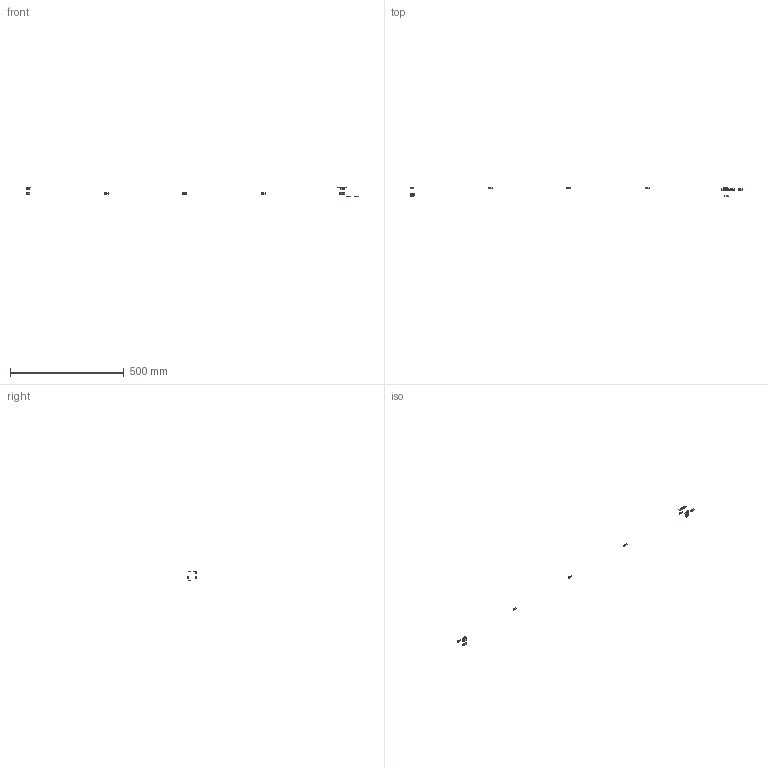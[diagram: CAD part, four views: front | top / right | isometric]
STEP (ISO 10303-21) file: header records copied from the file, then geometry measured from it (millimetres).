
FILE_DESCRIPTION(/* description */ (''),/* implementation_level */ '2;1');
FILE_NAME(/* name */ 'X-D717~1',/* time_stamp */ '2014-02-14T19:46:16+01:00',/* author */ (''),/* organization */ (''),/* preprocessor_version */ 'ST-DEVELOPER v14',/* originating_system */ '',/* authorisation */ '');
FILE_SCHEMA (('AUTOMOTIVE_DESIGN'));
Length unit declared in the file: millimetre
Products named in the file (2): Document; nut tslot, post, M5
Assembly tree (11 placements, depth 2):
  Document
    nut tslot, post, M5  x11
Bounding box: 1461 x 37.2 x 43.8 mm (x, y, z)
Volume: 4410.2 mm3; surface area: 5873.2 mm2
Topology: 14 solids, 14 shells, 182 faces, 504 edges, 336 vertices
Faces by surface type: plane 154, bspline 28
Entity records: 3937 total; most frequent: CARTESIAN_POINT 1838, B_SPLINE_CURVE_WITH_KNOTS 400, ORIENTED_EDGE 288, PCURVE 288, DEFINITIONAL_REPRESENTATION 288, SURFACE_CURVE 144, EDGE_CURVE 144, VERTEX_POINT 96
